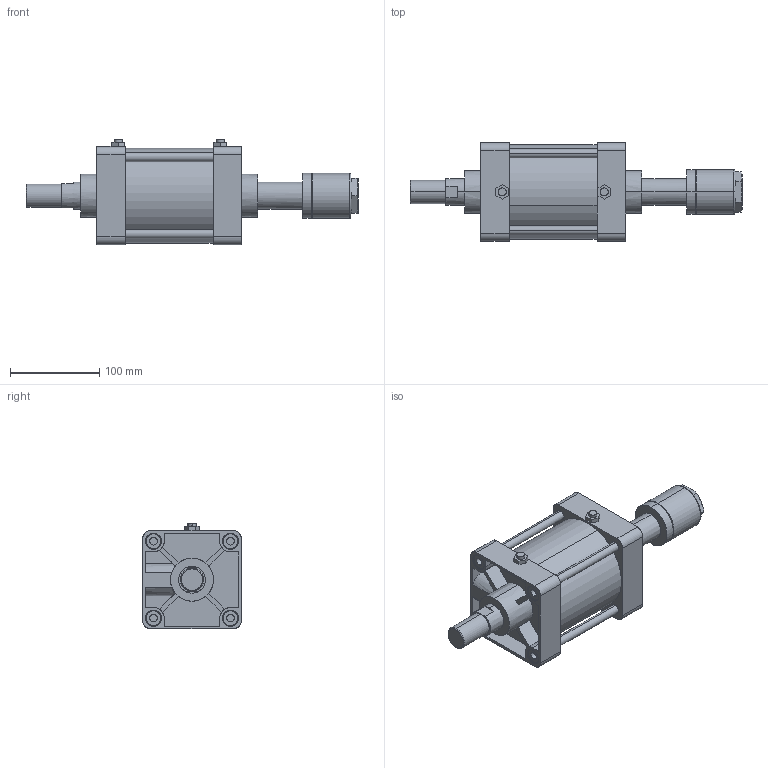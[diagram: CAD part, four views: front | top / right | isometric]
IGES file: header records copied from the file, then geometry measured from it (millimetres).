
Start section: SolidWorks IGES file using analytic representation for surfaces
Global section: file name: C:\Users\Toshiba\Desktop\KGA7-100#-50-N.IGS; native system: SolidWorks 2014; preprocessor: SolidWorks 2014; author: Toshiba; date: 160414.155546; units: millimetre
Bounding box: 371 x 110 x 118.3 mm (x, y, z)
Surface area: 237421.2 mm2 (no closed solid volume)
Topology: 0 solids, 0 shells, 356 faces, 5937 edges, 5933 vertices
Faces by surface type: bspline 197, revolution 159
